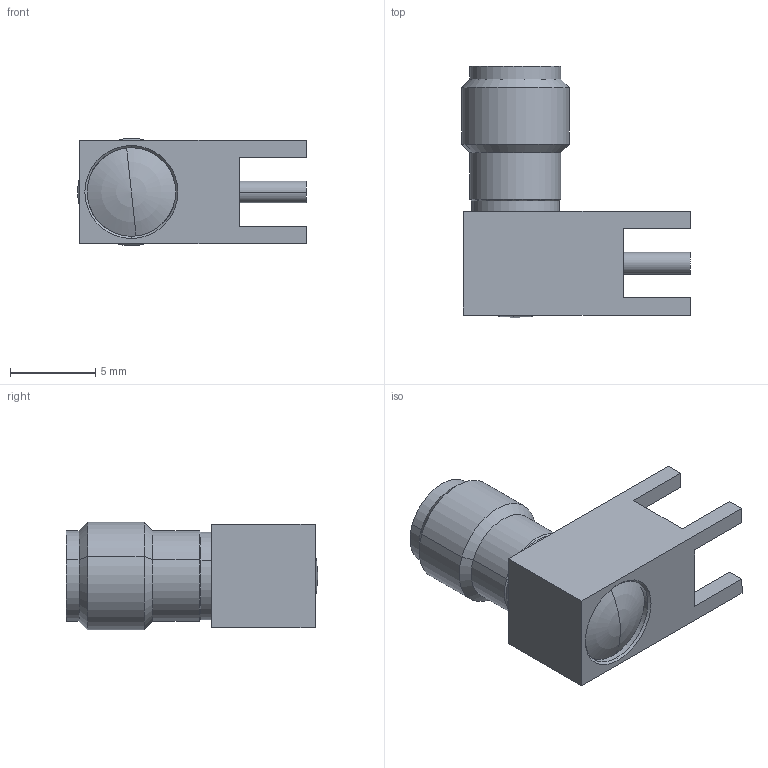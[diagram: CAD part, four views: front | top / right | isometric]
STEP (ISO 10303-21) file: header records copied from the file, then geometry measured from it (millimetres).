
FILE_DESCRIPTION (( 'STEP AP214' ), '1' );
FILE_NAME ('2986-6001.STEP', '2016-03-04T13:23:52', ( '' ), ( '' ), 'SwSTEP 2.0', 'SolidWorks 2015', '' );
FILE_SCHEMA (( 'AUTOMOTIVE_DESIGN' ));
Length unit declared in the file: inch
Products named in the file (1): 2986-6001
Bounding box: 13.45 x 14.8 x 6.33 mm (x, y, z)
Volume: 557 mm3; surface area: 586.6 mm2
Topology: 1 solids, 3 shells, 57 faces, 127 edges, 79 vertices
Faces by surface type: plane 24, cylinder 21, cone 10, torus 2
Entity records: 2315 total; most frequent: CARTESIAN_POINT 285, DIRECTION 283, ORIENTED_EDGE 250, EDGE_CURVE 125, AXIS2_PLACEMENT_3D 103, VERTEX_POINT 79, LINE 77, VECTOR 77
